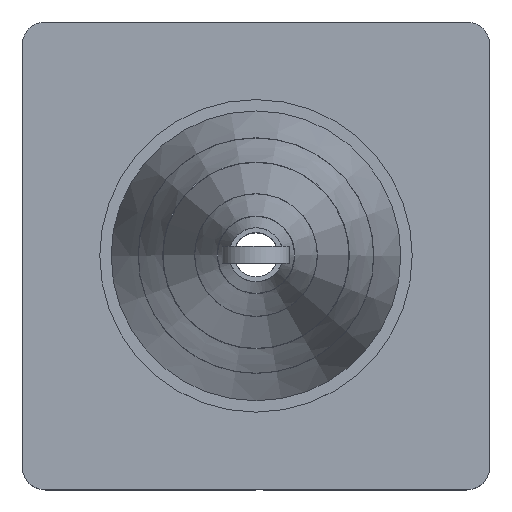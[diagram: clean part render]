
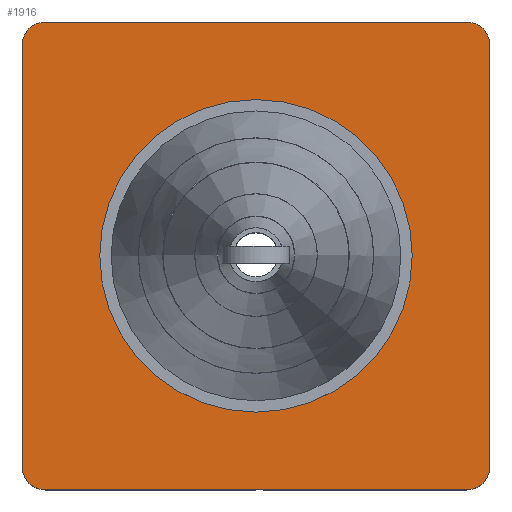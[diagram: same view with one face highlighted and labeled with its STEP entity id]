
A CAD part, top view. The second image highlights one B-rep face of the part: STEP entity #1916.
In plain terms, the highlighted planar face has unit normal (0, 0, 1).
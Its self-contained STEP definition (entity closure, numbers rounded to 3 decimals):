
#1818 = VERTEX_POINT('',#1819);
#1819 = CARTESIAN_POINT('',(-218.5,-242.5,157.));
#1835 = VERTEX_POINT('',#1836);
#1836 = CARTESIAN_POINT('',(-242.5,-218.5,157.));
#1842 = EDGE_CURVE('',#1835,#1818,#1843,.T.);
#1843 = CIRCLE('',#1844,24.);
#1844 = AXIS2_PLACEMENT_3D('',#1845,#1846,#1847);
#1845 = CARTESIAN_POINT('',(-218.5,-218.5,157.));
#1846 = DIRECTION('',(0.,0.,1.));
#1847 = DIRECTION('',(1.,0.,0.));
#1866 = EDGE_CURVE('',#1818,#1867,#1869,.T.);
#1867 = VERTEX_POINT('',#1868);
#1868 = CARTESIAN_POINT('',(218.5,-242.5,157.));
#1869 = LINE('',#1870,#1871);
#1870 = CARTESIAN_POINT('',(-218.5,-242.5,157.));
#1871 = VECTOR('',#1872,1.);
#1872 = DIRECTION('',(1.,0.,0.));
#1916 = ADVANCED_FACE('',(#1917,#1970),#1981,.T.);
#1917 = FACE_BOUND('',#1918,.T.);
#1918 = EDGE_LOOP('',(#1919,#1920,#1921,#1930,#1938,#1947,#1955,#1964));
#1919 = ORIENTED_EDGE('',*,*,#1842,.T.);
#1920 = ORIENTED_EDGE('',*,*,#1866,.T.);
#1921 = ORIENTED_EDGE('',*,*,#1922,.T.);
#1922 = EDGE_CURVE('',#1867,#1923,#1925,.T.);
#1923 = VERTEX_POINT('',#1924);
#1924 = CARTESIAN_POINT('',(242.5,-218.5,157.));
#1925 = CIRCLE('',#1926,24.);
#1926 = AXIS2_PLACEMENT_3D('',#1927,#1928,#1929);
#1927 = CARTESIAN_POINT('',(218.5,-218.5,157.));
#1928 = DIRECTION('',(0.,0.,1.));
#1929 = DIRECTION('',(1.,0.,0.));
#1930 = ORIENTED_EDGE('',*,*,#1931,.T.);
#1931 = EDGE_CURVE('',#1923,#1932,#1934,.T.);
#1932 = VERTEX_POINT('',#1933);
#1933 = CARTESIAN_POINT('',(242.5,218.5,157.));
#1934 = LINE('',#1935,#1936);
#1935 = CARTESIAN_POINT('',(242.5,-218.5,157.));
#1936 = VECTOR('',#1937,1.);
#1937 = DIRECTION('',(0.,1.,0.));
#1938 = ORIENTED_EDGE('',*,*,#1939,.T.);
#1939 = EDGE_CURVE('',#1932,#1940,#1942,.T.);
#1940 = VERTEX_POINT('',#1941);
#1941 = CARTESIAN_POINT('',(218.5,242.5,157.));
#1942 = CIRCLE('',#1943,24.);
#1943 = AXIS2_PLACEMENT_3D('',#1944,#1945,#1946);
#1944 = CARTESIAN_POINT('',(218.5,218.5,157.));
#1945 = DIRECTION('',(0.,0.,1.));
#1946 = DIRECTION('',(1.,0.,0.));
#1947 = ORIENTED_EDGE('',*,*,#1948,.F.);
#1948 = EDGE_CURVE('',#1949,#1940,#1951,.T.);
#1949 = VERTEX_POINT('',#1950);
#1950 = CARTESIAN_POINT('',(-218.5,242.5,157.));
#1951 = LINE('',#1952,#1953);
#1952 = CARTESIAN_POINT('',(-218.5,242.5,157.));
#1953 = VECTOR('',#1954,1.);
#1954 = DIRECTION('',(1.,0.,0.));
#1955 = ORIENTED_EDGE('',*,*,#1956,.T.);
#1956 = EDGE_CURVE('',#1949,#1957,#1959,.T.);
#1957 = VERTEX_POINT('',#1958);
#1958 = CARTESIAN_POINT('',(-242.5,218.5,157.));
#1959 = CIRCLE('',#1960,24.);
#1960 = AXIS2_PLACEMENT_3D('',#1961,#1962,#1963);
#1961 = CARTESIAN_POINT('',(-218.5,218.5,157.));
#1962 = DIRECTION('',(0.,0.,1.));
#1963 = DIRECTION('',(1.,0.,0.));
#1964 = ORIENTED_EDGE('',*,*,#1965,.F.);
#1965 = EDGE_CURVE('',#1835,#1957,#1966,.T.);
#1966 = LINE('',#1967,#1968);
#1967 = CARTESIAN_POINT('',(-242.5,-218.5,157.));
#1968 = VECTOR('',#1969,1.);
#1969 = DIRECTION('',(0.,1.,0.));
#1970 = FACE_BOUND('',#1971,.T.);
#1971 = EDGE_LOOP('',(#1972));
#1972 = ORIENTED_EDGE('',*,*,#1973,.T.);
#1973 = EDGE_CURVE('',#1974,#1974,#1976,.T.);
#1974 = VERTEX_POINT('',#1975);
#1975 = CARTESIAN_POINT('',(162.,0.,157.));
#1976 = CIRCLE('',#1977,162.);
#1977 = AXIS2_PLACEMENT_3D('',#1978,#1979,#1980);
#1978 = CARTESIAN_POINT('',(0.,0.,157.));
#1979 = DIRECTION('',(0.,0.,-1.));
#1980 = DIRECTION('',(1.,0.,0.));
#1981 = PLANE('',#1982);
#1982 = AXIS2_PLACEMENT_3D('',#1983,#1984,#1985);
#1983 = CARTESIAN_POINT('',(0.,0.,157.));
#1984 = DIRECTION('',(0.,0.,1.));
#1985 = DIRECTION('',(1.,0.,0.));
